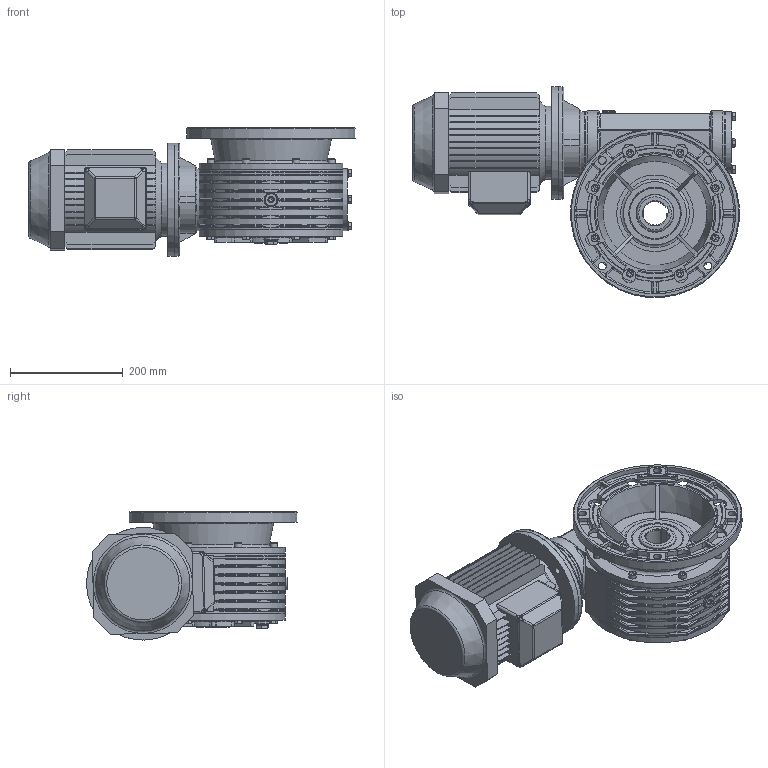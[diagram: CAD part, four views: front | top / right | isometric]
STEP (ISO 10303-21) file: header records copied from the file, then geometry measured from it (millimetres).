
FILE_DESCRIPTION((''),'2;1');
FILE_NAME('Y:\Archivi Inventor\Prog_01\GRAND_60\FIGURINI\MRV60 sito\90L\MRV60_F1_90L_B5.stp','2013-02-08T10:58:03',('tech3'),(''),'Autodesk Inventor 2013','Autodesk Inventor 2013','');
FILE_SCHEMA(('AUTOMOTIVE_DESIGN { 1 0 10303 214 1 1 1 1 }'));
Length unit declared in the file: millimetre
Products named in the file (20): MRV60_90S_90L_B5; MRV60_FIG; 0106001.A0 figurino; 0106009; UNI 5739 M8 x 20; figurino corona; PARAOLIO 65x90x10; 0106028; 0106029; UNI 5739 M8 x 25; Tappo3_8 GAS; Guarnizione 3_8 GAS; Tappo 3_8 GAS_esagn_incsst; DIN EN ISO 4762 M8 x 16; 0106002.A0 figurino; DIN EN ISO 4762 M8 x 20; 0106003.A0 figurino; UNI 8839 A 8; 0106006; motori B5 90L
Assembly tree (46 placements, depth 3):
  MRV60_90S_90L_B5
    MRV60_FIG
      0106001.A0 figurino
      0106009
      UNI 5739 M8 x 20  x4
      figurino corona
      PARAOLIO 65x90x10  x2
      0106028
      0106029  x2
      UNI 5739 M8 x 25  x8
      Tappo3_8 GAS
      Guarnizione 3_8 GAS  x2
      Tappo 3_8 GAS_esagn_incsst  x2
      DIN EN ISO 4762 M8 x 16  x4
      0106002.A0 figurino
      DIN EN ISO 4762 M8 x 20  x8
      0106003.A0 figurino
      UNI 8839 A 8  x4
    0106006
    motori B5 90L
Bounding box: 579.53 x 374.43 x 227.35 mm (x, y, z)
Volume: 15060341.6 mm3; surface area: 1471025.6 mm2
Topology: 45 solids, 49 shells, 2080 faces, 5118 edges, 3118 vertices
Faces by surface type: plane 905, cylinder 630, bspline 204, cone 162, torus 157, sphere 22
Full cylindrical faces by diameter (mm): 2 x2, 6.647 x24, 8 x26, 8.5 x40, 8.75 x4, 11 x4, 11.63 x12, 12 x4, 13 x12, 13.046 x1, 14 x4, 14.95 x3, 16 x4, 16.3 x2, 16.5 x2, 22 x5, 24 x9, 25 x2, 42 x1, 65 x2, 70 x1, 72.881 x2, 80 x5, 83.5 x2, 90 x5, 109.5 x1, 110 x4, 114 x2, 114.4 x1, 120 x1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
Entity records: 60589 total; most frequent: CARTESIAN_POINT 20667, DIRECTION 8160, ORIENTED_EDGE 7824, EDGE_CURVE 3912, AXIS2_PLACEMENT_3D 3209, VERTEX_POINT 2539, EDGE_LOOP 2063, VECTOR 1742
